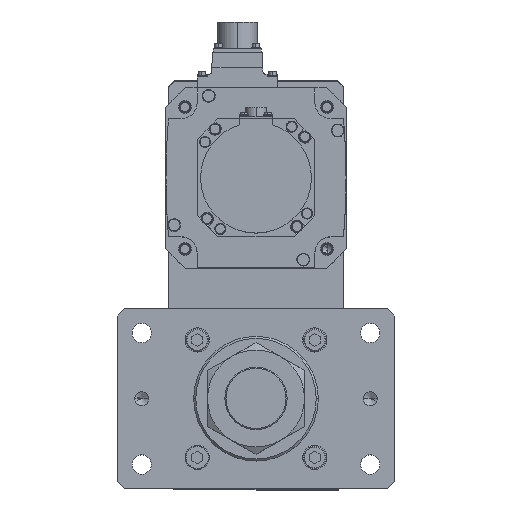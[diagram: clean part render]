
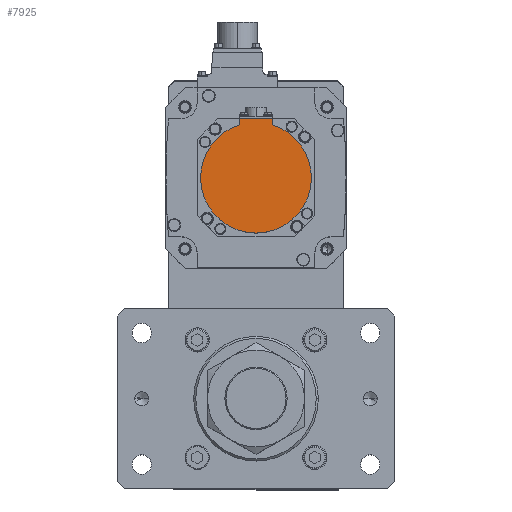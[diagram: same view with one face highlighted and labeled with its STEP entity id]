
A CAD part, top view. The second image highlights one B-rep face of the part: STEP entity #7925.
In plain terms, the highlighted planar face has unit normal (0, 0, 1) as drawn and (0, 0, -1) by its records, which use the part's own axes.
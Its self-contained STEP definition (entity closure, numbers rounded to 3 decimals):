
#642 = CARTESIAN_POINT ( 'NONE',  ( 0., -42.5, -146.5 ) ) ;
#760 = ORIENTED_EDGE ( 'NONE', *, *, #6346, .F. ) ;
#1415 = VECTOR ( 'NONE', #3131, 1000. ) ;
#1954 = ORIENTED_EDGE ( 'NONE', *, *, #10318, .T. ) ;
#2118 = ORIENTED_EDGE ( 'NONE', *, *, #26912, .F. ) ;
#2613 = ORIENTED_EDGE ( 'NONE', *, *, #9689, .F. ) ;
#2787 = CARTESIAN_POINT ( 'NONE',  ( -40., 0., -146.5 ) ) ;
#3131 = DIRECTION ( 'NONE',  ( -1., 0., 0. ) ) ;
#4343 = CARTESIAN_POINT ( 'NONE',  ( 0., -1.249, -146.5 ) ) ;
#5564 = CIRCLE ( 'NONE', #14836, 40. ) ;
#6229 = DIRECTION ( 'NONE',  ( 0., 0., 1. ) ) ;
#6346 = EDGE_CURVE ( 'NONE', #22014, #32021, #14421, .T. ) ;
#6980 = CARTESIAN_POINT ( 'NONE',  ( 0., 0., -146.5 ) ) ;
#7117 = VERTEX_POINT ( 'NONE', #22086 ) ;
#7195 = EDGE_LOOP ( 'NONE', ( #31948, #2118, #760, #30898, #2613, #1954 ) ) ;
#7925 = ADVANCED_FACE ( 'NONE', ( #24886 ), #9358, .F. ) ;
#9358 = PLANE ( 'NONE',  #26250 ) ;
#9600 = CARTESIAN_POINT ( 'NONE',  ( 12., -1.249, -146.5 ) ) ;
#9689 = EDGE_CURVE ( 'NONE', #28512, #7117, #30188, .T. ) ;
#10318 = EDGE_CURVE ( 'NONE', #28512, #33374, #13510, .T. ) ;
#12485 = CIRCLE ( 'NONE', #20307, 40. ) ;
#12495 = DIRECTION ( 'NONE',  ( 0., 0., 1. ) ) ;
#13510 = LINE ( 'NONE', #642, #1415 ) ;
#14093 = CARTESIAN_POINT ( 'NONE',  ( 40., 0., -146.5 ) ) ;
#14421 = CIRCLE ( 'NONE', #16139, 40. ) ;
#14836 = AXIS2_PLACEMENT_3D ( 'NONE', #16631, #6229, #19527 ) ;
#16139 = AXIS2_PLACEMENT_3D ( 'NONE', #28454, #12495, #28811 ) ;
#16631 = CARTESIAN_POINT ( 'NONE',  ( 0., 0., -146.5 ) ) ;
#17358 = CARTESIAN_POINT ( 'NONE',  ( -12., -42.5, -146.5 ) ) ;
#17918 = DIRECTION ( 'NONE',  ( 1., 0., 0. ) ) ;
#18119 = VECTOR ( 'NONE', #20992, 1000. ) ;
#19527 = DIRECTION ( 'NONE',  ( 1., 0., 0. ) ) ;
#19830 = DIRECTION ( 'NONE',  ( 1., 0., 0. ) ) ;
#19942 = DIRECTION ( 'NONE',  ( 0., 0., 1. ) ) ;
#20307 = AXIS2_PLACEMENT_3D ( 'NONE', #6980, #33916, #17918 ) ;
#20483 = EDGE_CURVE ( 'NONE', #7117, #22014, #12485, .T. ) ;
#20992 = DIRECTION ( 'NONE',  ( 0., 1., 0. ) ) ;
#22014 = VERTEX_POINT ( 'NONE', #14093 ) ;
#22086 = CARTESIAN_POINT ( 'NONE',  ( 12., -38.158, -146.5 ) ) ;
#23569 = LINE ( 'NONE', #26261, #18119 ) ;
#24098 = CARTESIAN_POINT ( 'NONE',  ( -12., -38.158, -146.5 ) ) ;
#24886 = FACE_OUTER_BOUND ( 'NONE', #7195, .T. ) ;
#26250 = AXIS2_PLACEMENT_3D ( 'NONE', #4343, #19942, #19830 ) ;
#26261 = CARTESIAN_POINT ( 'NONE',  ( -12., -40.329, -146.5 ) ) ;
#26279 = CARTESIAN_POINT ( 'NONE',  ( 12., -42.5, -146.5 ) ) ;
#26357 = DIRECTION ( 'NONE',  ( 0., 1., 0. ) ) ;
#26912 = EDGE_CURVE ( 'NONE', #32021, #33816, #5564, .T. ) ;
#27689 = VECTOR ( 'NONE', #26357, 1000. ) ;
#27795 = EDGE_CURVE ( 'NONE', #33374, #33816, #23569, .T. ) ;
#28454 = CARTESIAN_POINT ( 'NONE',  ( 0., 0., -146.5 ) ) ;
#28512 = VERTEX_POINT ( 'NONE', #26279 ) ;
#28811 = DIRECTION ( 'NONE',  ( 1., 0., 0. ) ) ;
#30188 = LINE ( 'NONE', #9600, #27689 ) ;
#30898 = ORIENTED_EDGE ( 'NONE', *, *, #20483, .F. ) ;
#31948 = ORIENTED_EDGE ( 'NONE', *, *, #27795, .T. ) ;
#32021 = VERTEX_POINT ( 'NONE', #2787 ) ;
#33374 = VERTEX_POINT ( 'NONE', #17358 ) ;
#33816 = VERTEX_POINT ( 'NONE', #24098 ) ;
#33916 = DIRECTION ( 'NONE',  ( 0., 0., 1. ) ) ;
